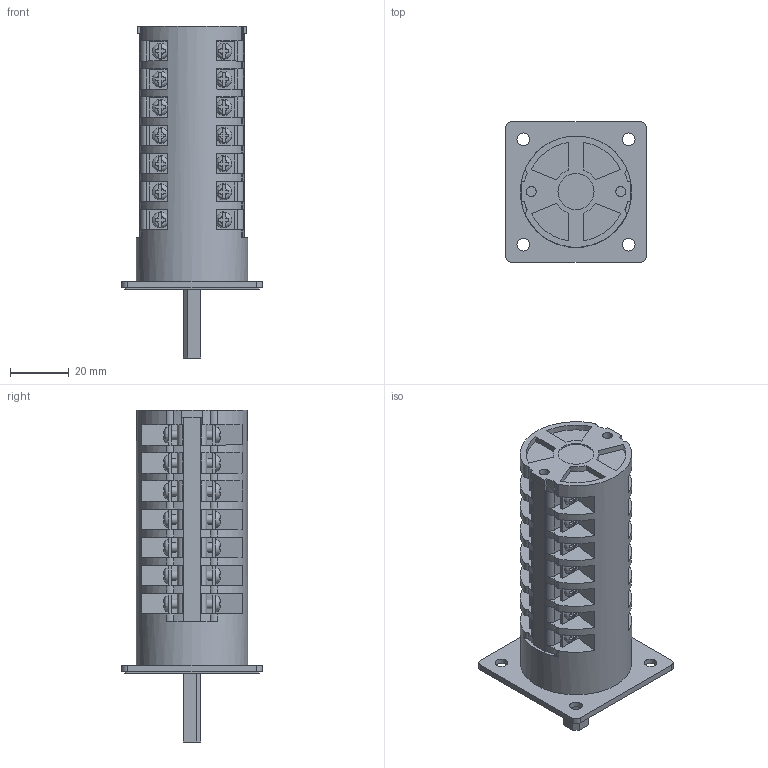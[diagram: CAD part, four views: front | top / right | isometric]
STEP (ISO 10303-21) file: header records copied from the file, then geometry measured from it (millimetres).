
FILE_DESCRIPTION(/* description */ (''),/* implementation_level */ '2;1');
FILE_NAME(/* name */ '4G10-U_standard_7_korpusow.stp',/* time_stamp */ '2021-07-21T07:50:14+02:00',/* author */ (''),/* organization */ (''),/* preprocessor_version */ 'ST-DEVELOPER v18.1',/* originating_system */ 'SIEMENS PLM Software NX 1965',/* authorisation */ '');
FILE_SCHEMA (('AUTOMOTIVE_DESIGN { 1 0 10303 214 3 1 1 1 }'));
Length unit declared in the file: millimetre
Products named in the file (1): 4G10-U_standard_7_korpusow_stp
Bounding box: 48 x 48 x 113.3 mm (x, y, z)
Volume: 85654.9 mm3; surface area: 29251.1 mm2
Topology: 1 solids, 1 shells, 977 faces, 2686 edges, 1792 vertices
Faces by surface type: plane 798, cylinder 149, bspline 28, torus 2
Full cylindrical faces by diameter (mm): 3.2 x28, 3.4 x3, 4.3 x4, 6.2 x2, 7.2 x4, 12.3 x1, 16.2 x1, 16.8 x1, 38 x1
Entity records: 31015 total; most frequent: CARTESIAN_POINT 6861, ORIENTED_EDGE 5094, DIRECTION 4781, EDGE_CURVE 2547, VERTEX_POINT 1728, LINE 1645, VECTOR 1645, AXIS2_PLACEMENT_3D 1568
